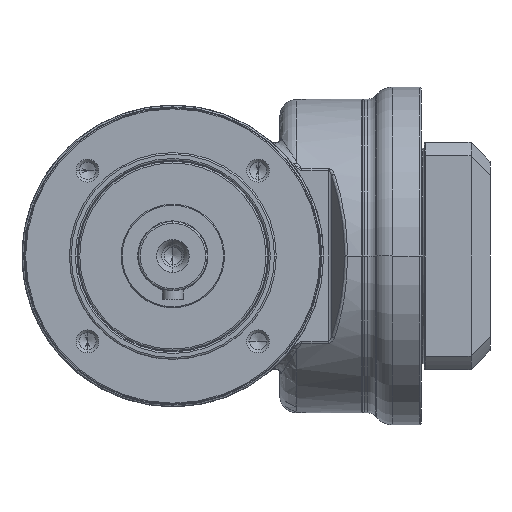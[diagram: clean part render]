
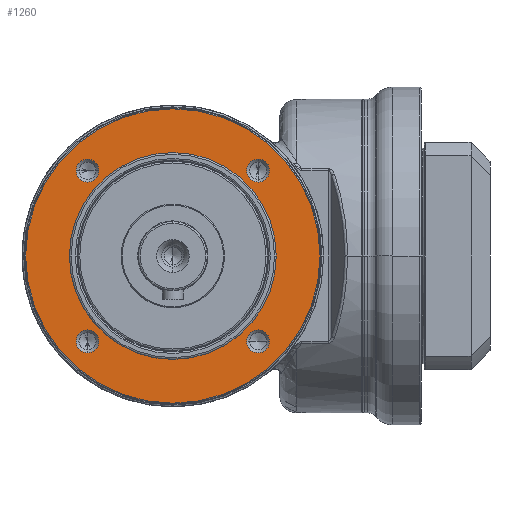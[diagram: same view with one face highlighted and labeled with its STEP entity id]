
A CAD part, left-side view. The second image highlights one B-rep face of the part: STEP entity #1260.
In plain terms, the highlighted planar face has unit normal (-1, 0, 0).
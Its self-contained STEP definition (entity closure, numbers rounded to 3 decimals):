
#173=CARTESIAN_POINT('',(3.,24.749,24.749));
#174=DIRECTION('',(1.,0.,0.));
#175=DIRECTION('',(0.,-1.,0.));
#176=AXIS2_PLACEMENT_3D('',#173,#174,#175);
#178=CARTESIAN_POINT('',(3.,24.749,24.749));
#179=DIRECTION('',(1.,0.,0.));
#180=DIRECTION('',(0.,1.,0.));
#181=AXIS2_PLACEMENT_3D('',#178,#179,#180);
#183=CARTESIAN_POINT('',(3.,24.749,-24.749));
#184=DIRECTION('',(1.,0.,0.));
#185=DIRECTION('',(0.,0.,1.));
#186=AXIS2_PLACEMENT_3D('',#183,#184,#185);
#188=CARTESIAN_POINT('',(3.,24.749,-24.749));
#189=DIRECTION('',(1.,0.,0.));
#190=DIRECTION('',(0.,0.,-1.));
#191=AXIS2_PLACEMENT_3D('',#188,#189,#190);
#193=CARTESIAN_POINT('',(3.,-24.749,-24.749));
#194=DIRECTION('',(1.,0.,0.));
#195=DIRECTION('',(0.,1.,0.));
#196=AXIS2_PLACEMENT_3D('',#193,#194,#195);
#198=CARTESIAN_POINT('',(3.,-24.749,-24.749));
#199=DIRECTION('',(1.,0.,0.));
#200=DIRECTION('',(0.,-1.,0.));
#201=AXIS2_PLACEMENT_3D('',#198,#199,#200);
#203=CARTESIAN_POINT('',(3.,-24.749,24.749));
#204=DIRECTION('',(1.,0.,0.));
#205=DIRECTION('',(0.,0.,-1.));
#206=AXIS2_PLACEMENT_3D('',#203,#204,#205);
#208=CARTESIAN_POINT('',(3.,-24.749,24.749));
#209=DIRECTION('',(1.,0.,0.));
#210=DIRECTION('',(0.,0.,1.));
#211=AXIS2_PLACEMENT_3D('',#208,#209,#210);
#213=CARTESIAN_POINT('',(3.,0.,0.));
#214=DIRECTION('',(-1.,0.,0.));
#215=DIRECTION('',(0.,1.,0.));
#216=AXIS2_PLACEMENT_3D('',#213,#214,#215);
#218=CARTESIAN_POINT('',(3.,0.,0.));
#219=DIRECTION('',(-1.,0.,0.));
#220=DIRECTION('',(0.,-1.,0.));
#221=AXIS2_PLACEMENT_3D('',#218,#219,#220);
#223=CARTESIAN_POINT('',(3.,0.,0.));
#224=DIRECTION('',(1.,0.,0.));
#225=DIRECTION('',(0.,1.,0.));
#226=AXIS2_PLACEMENT_3D('',#223,#224,#225);
#228=CARTESIAN_POINT('',(3.,0.,0.));
#229=DIRECTION('',(1.,0.,0.));
#230=DIRECTION('',(0.,-1.,0.));
#231=AXIS2_PLACEMENT_3D('',#228,#229,#230);
#841=CARTESIAN_POINT('',(3.,21.449,24.749));
#842=CARTESIAN_POINT('',(3.,28.049,24.749));
#843=VERTEX_POINT('',#841);
#844=VERTEX_POINT('',#842);
#845=CARTESIAN_POINT('',(3.,24.749,-21.449));
#846=CARTESIAN_POINT('',(3.,24.749,-28.049));
#847=VERTEX_POINT('',#845);
#848=VERTEX_POINT('',#846);
#849=CARTESIAN_POINT('',(3.,-21.449,-24.749));
#850=CARTESIAN_POINT('',(3.,-28.049,-24.749));
#851=VERTEX_POINT('',#849);
#852=VERTEX_POINT('',#850);
#853=CARTESIAN_POINT('',(3.,-24.749,21.449));
#854=CARTESIAN_POINT('',(3.,-24.749,28.049));
#855=VERTEX_POINT('',#853);
#856=VERTEX_POINT('',#854);
#929=CARTESIAN_POINT('',(3.,30.,0.));
#930=CARTESIAN_POINT('',(3.,-30.,0.));
#931=VERTEX_POINT('',#929);
#932=VERTEX_POINT('',#930);
#941=CARTESIAN_POINT('',(3.,42.7,0.));
#942=CARTESIAN_POINT('',(3.,-42.7,0.));
#943=VERTEX_POINT('',#941);
#944=VERTEX_POINT('',#942);
#1221=CARTESIAN_POINT('',(3.,0.,0.));
#1222=DIRECTION('',(-1.,0.,0.));
#1223=DIRECTION('',(0.,1.,0.));
#1224=AXIS2_PLACEMENT_3D('',#1221,#1222,#1223);
#1225=PLANE('',#1224);
#1226=ORIENTED_EDGE('',*,*,#1175,.T.);
#1227=ORIENTED_EDGE('',*,*,#1190,.T.);
#1228=EDGE_LOOP('',(#1226,#1227));
#1229=FACE_OUTER_BOUND('',#1228,.F.);
#1231=ORIENTED_EDGE('',*,*,#1230,.F.);
#1233=ORIENTED_EDGE('',*,*,#1232,.F.);
#1234=EDGE_LOOP('',(#1231,#1233));
#1235=FACE_BOUND('',#1234,.F.);
#1237=ORIENTED_EDGE('',*,*,#1236,.F.);
#1239=ORIENTED_EDGE('',*,*,#1238,.F.);
#1240=EDGE_LOOP('',(#1237,#1239));
#1241=FACE_BOUND('',#1240,.F.);
#1243=ORIENTED_EDGE('',*,*,#1242,.F.);
#1245=ORIENTED_EDGE('',*,*,#1244,.F.);
#1246=EDGE_LOOP('',(#1243,#1245));
#1247=FACE_BOUND('',#1246,.F.);
#1249=ORIENTED_EDGE('',*,*,#1248,.F.);
#1251=ORIENTED_EDGE('',*,*,#1250,.F.);
#1252=EDGE_LOOP('',(#1249,#1251));
#1253=FACE_BOUND('',#1252,.F.);
#1255=ORIENTED_EDGE('',*,*,#1254,.T.);
#1257=ORIENTED_EDGE('',*,*,#1256,.T.);
#1258=EDGE_LOOP('',(#1255,#1257));
#1259=FACE_BOUND('',#1258,.F.);
#1260=ADVANCED_FACE('',(#1229,#1235,#1241,#1247,#1253,#1259),#1225,.T.);
#177=CIRCLE('',#176,3.3);
#182=CIRCLE('',#181,3.3);
#187=CIRCLE('',#186,3.3);
#192=CIRCLE('',#191,3.3);
#197=CIRCLE('',#196,3.3);
#202=CIRCLE('',#201,3.3);
#207=CIRCLE('',#206,3.3);
#212=CIRCLE('',#211,3.3);
#217=CIRCLE('',#216,30.);
#222=CIRCLE('',#221,30.);
#227=CIRCLE('',#226,42.7);
#232=CIRCLE('',#231,42.7);
#1175=EDGE_CURVE('',#943,#944,#227,.T.);
#1190=EDGE_CURVE('',#944,#943,#232,.T.);
#1230=EDGE_CURVE('',#843,#844,#177,.T.);
#1232=EDGE_CURVE('',#844,#843,#182,.T.);
#1236=EDGE_CURVE('',#847,#848,#187,.T.);
#1238=EDGE_CURVE('',#848,#847,#192,.T.);
#1242=EDGE_CURVE('',#851,#852,#197,.T.);
#1244=EDGE_CURVE('',#852,#851,#202,.T.);
#1248=EDGE_CURVE('',#855,#856,#207,.T.);
#1250=EDGE_CURVE('',#856,#855,#212,.T.);
#1254=EDGE_CURVE('',#931,#932,#217,.T.);
#1256=EDGE_CURVE('',#932,#931,#222,.T.);
